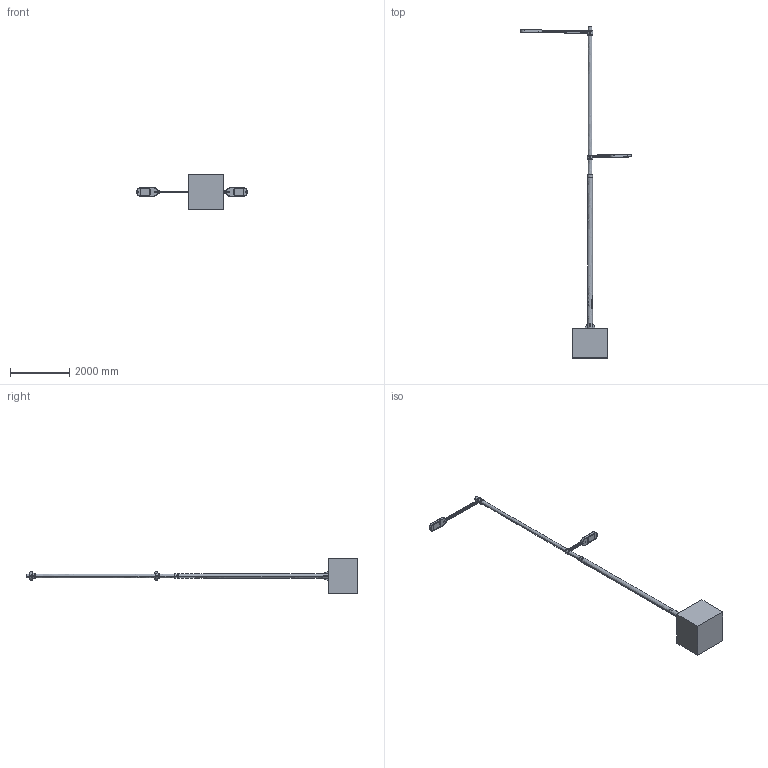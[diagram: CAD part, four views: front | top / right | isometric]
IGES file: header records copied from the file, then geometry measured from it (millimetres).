
Start section: SolidWorks IGES file using analytic representation for surfaces
Global section: file name: C:\SANTACOLE_PDM\Proyectos Catálogo\PROD-P11_014 -- CANDELA LED\6_Técnico comercial\3D WEB\IGES\Farola Candela LED 1020cm 2S 2L DIFERENTE ALTURA BRAZO LARGO BRAZO CORTO.IGS; native system: SolidWorks 2013; preprocessor: SolidWorks 2013; author: jordi.munoz; date: 150527.165630; units: millimetre
Bounding box: 3752.67 x 11224.5 x 1200 mm (x, y, z)
Surface area: 21561606.2 mm2 (no closed solid volume)
Topology: 0 solids, 0 shells, 4039 faces, 38582 edges, 38532 vertices
Faces by surface type: bspline 2842, revolution 1197
